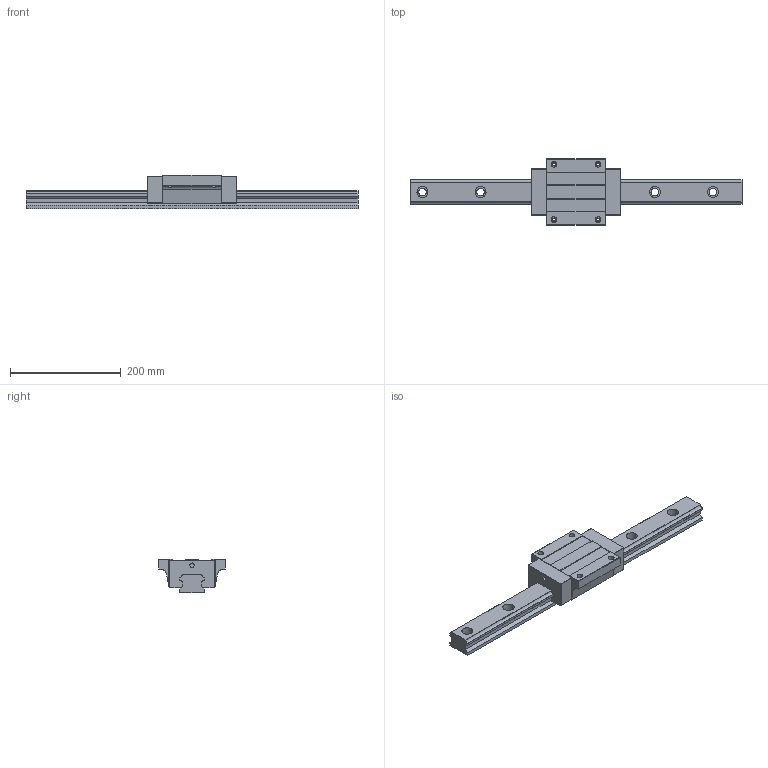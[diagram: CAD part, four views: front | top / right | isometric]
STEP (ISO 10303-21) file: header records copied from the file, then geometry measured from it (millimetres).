
FILE_DESCRIPTION (( 'STEP AP203' ), '1' );
FILE_NAME ('TRH45FL-WZ-§ï.STEP', '2023-08-30T01:10:27', ( '' ), ( '' ), 'SwSTEP 2.0', 'SolidWorks 2022', '' );
FILE_SCHEMA (( 'CONFIG_CONTROL_DESIGN' ));
Length unit declared in the file: millimetre
Products named in the file (1): TRH45FL-WZ-改
Bounding box: 600 x 120 x 60 mm (x, y, z)
Volume: 1312333.8 mm3; surface area: 166791 mm2
Topology: 1 solids, 1 shells, 187 faces, 506 edges, 328 vertices
Faces by surface type: cylinder 92, plane 91, sphere 4
Entity records: 6371 total; most frequent: CARTESIAN_POINT 1432, DIRECTION 1038, ORIENTED_EDGE 1004, EDGE_CURVE 502, AXIS2_PLACEMENT_3D 360, VERTEX_POINT 328, LINE 318, VECTOR 318
